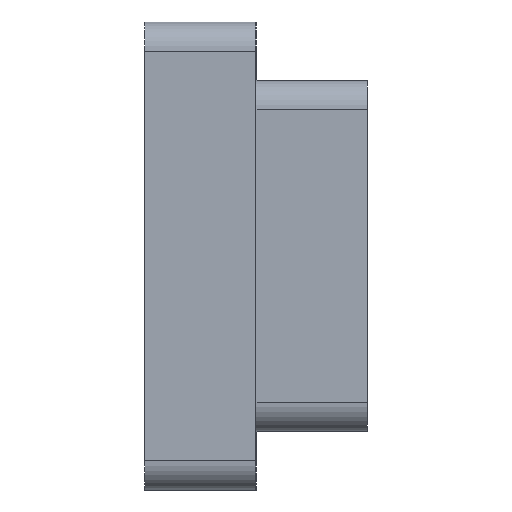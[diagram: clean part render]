
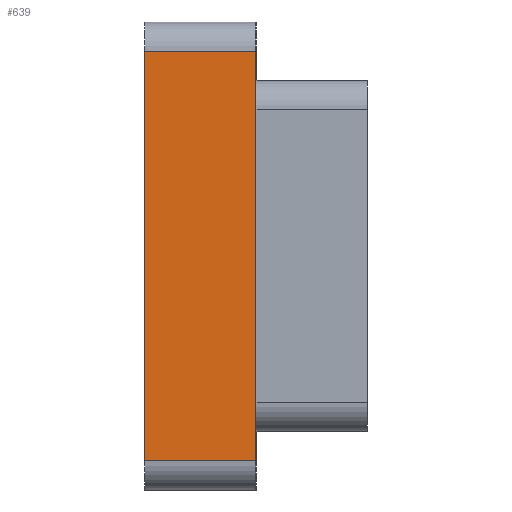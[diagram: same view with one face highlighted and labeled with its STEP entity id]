
A CAD part, left-side view. The second image highlights one B-rep face of the part: STEP entity #639.
In plain terms, the highlighted planar face has unit normal (-1, 0, 0).
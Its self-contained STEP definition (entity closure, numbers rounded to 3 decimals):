
#36=LINE('',#938,#96);
#55=LINE('',#1007,#115);
#78=LINE('',#1072,#138);
#79=LINE('',#1075,#139);
#80=LINE('',#1077,#140);
#81=LINE('',#1079,#141);
#96=VECTOR('',#742,1000.);
#115=VECTOR('',#801,1000.);
#138=VECTOR('',#872,1000.);
#139=VECTOR('',#877,1000.);
#140=VECTOR('',#878,1000.);
#141=VECTOR('',#879,1000.);
#271=ORIENTED_EDGE('',*,*,#344,.T.);
#272=ORIENTED_EDGE('',*,*,#378,.T.);
#273=ORIENTED_EDGE('',*,*,#411,.T.);
#274=ORIENTED_EDGE('',*,*,#413,.F.);
#275=ORIENTED_EDGE('',*,*,#414,.F.);
#276=ORIENTED_EDGE('',*,*,#415,.T.);
#344=EDGE_CURVE('',#438,#437,#36,.T.);
#378=EDGE_CURVE('',#437,#468,#55,.T.);
#411=EDGE_CURVE('',#468,#485,#78,.T.);
#413=EDGE_CURVE('',#486,#485,#79,.T.);
#414=EDGE_CURVE('',#487,#486,#80,.T.);
#415=EDGE_CURVE('',#487,#438,#81,.T.);
#437=VERTEX_POINT('',#937);
#438=VERTEX_POINT('',#939);
#468=VERTEX_POINT('',#1008);
#485=VERTEX_POINT('',#1071);
#486=VERTEX_POINT('',#1076);
#487=VERTEX_POINT('',#1078);
#548=EDGE_LOOP('',(#271,#272,#273,#274,#275,#276));
#584=FACE_BOUND('',#548,.T.);
#614=PLANE('',#714);
#639=ADVANCED_FACE('',(#584),#614,.F.);
#714=AXIS2_PLACEMENT_3D('',#1074,#875,#876);
#742=DIRECTION('',(0.,0.,1.));
#801=DIRECTION('',(0.,0.,1.));
#872=DIRECTION('',(0.,0.,1.));
#875=DIRECTION('',(1.,0.,0.));
#876=DIRECTION('',(0.,0.,-1.));
#877=DIRECTION('',(0.,-1.,0.));
#878=DIRECTION('',(0.,0.,1.));
#879=DIRECTION('',(0.,-1.,0.));
#937=CARTESIAN_POINT('',(-5.,1.9,-3.));
#938=CARTESIAN_POINT('',(-5.,1.9,-3.5));
#939=CARTESIAN_POINT('',(-5.,1.9,-3.5));
#1007=CARTESIAN_POINT('',(-5.,1.9,-3.5));
#1008=CARTESIAN_POINT('',(-5.,1.9,3.));
#1071=CARTESIAN_POINT('',(-5.,1.9,3.5));
#1072=CARTESIAN_POINT('',(-5.,1.9,-3.5));
#1074=CARTESIAN_POINT('',(-5.,3.8,-3.5));
#1075=CARTESIAN_POINT('',(-5.,3.8,3.5));
#1076=CARTESIAN_POINT('',(-5.,3.8,3.5));
#1077=CARTESIAN_POINT('',(-5.,3.8,-3.5));
#1078=CARTESIAN_POINT('',(-5.,3.8,-3.5));
#1079=CARTESIAN_POINT('',(-5.,3.8,-3.5));
